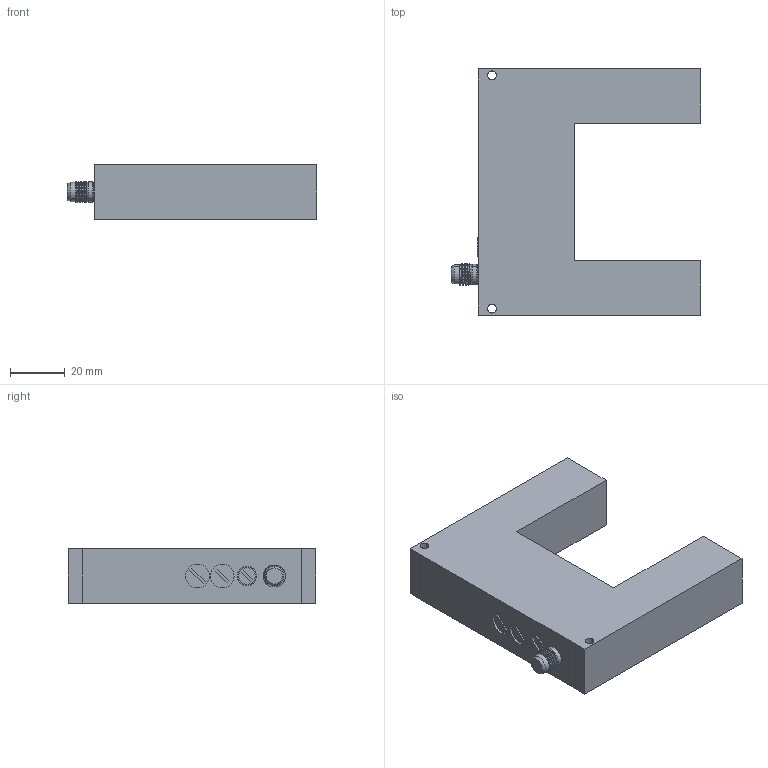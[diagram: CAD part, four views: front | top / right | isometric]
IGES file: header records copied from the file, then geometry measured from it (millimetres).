
Start section: IMSI TurboCAD v14.0
Global section: author: NULL; organization: NULL; date: 20200901.121701; units: millimetre
Bounding box: 90.72 x 90 x 20 mm (x, y, z)
Surface area: 19450.1 mm2 (no closed solid volume)
Topology: 0 solids, 0 shells, 89 faces, 429 edges, 429 vertices
Faces by surface type: revolution 46, extrusion 41, bspline 2
